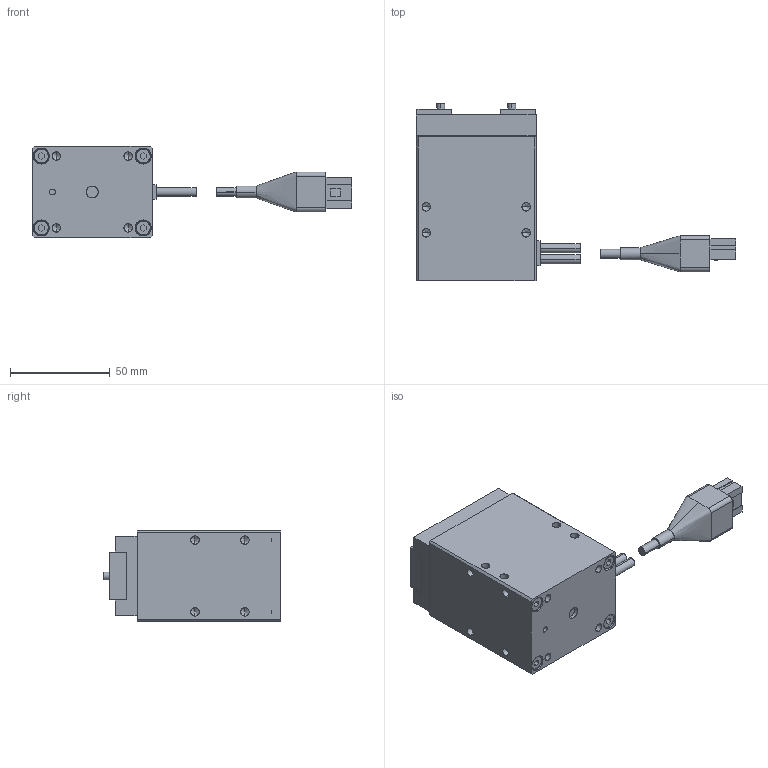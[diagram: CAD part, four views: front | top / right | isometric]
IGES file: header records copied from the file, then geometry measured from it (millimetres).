
Start section: SolidWorks IGES file using analytic representation for surfaces
Global section: file name: G:\SW2007図面\TAIYO\電動機器３Ｄ\電動グリッパ　２爪\ESG1-SS-4225.IGS; native system: SolidWorks 2007; preprocessor: SolidWorks 2007; author: 風音庵,,1; organization: 1; date: 090212.173133; units: millimetre
Bounding box: 159.89 x 89 x 46 mm (x, y, z)
Surface area: 38425 mm2 (no closed solid volume)
Topology: 0 solids, 0 shells, 334 faces, 3442 edges, 3402 vertices
Faces by surface type: bspline 202, revolution 132
